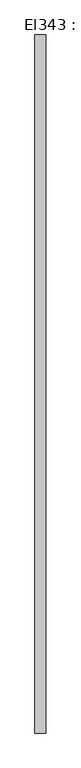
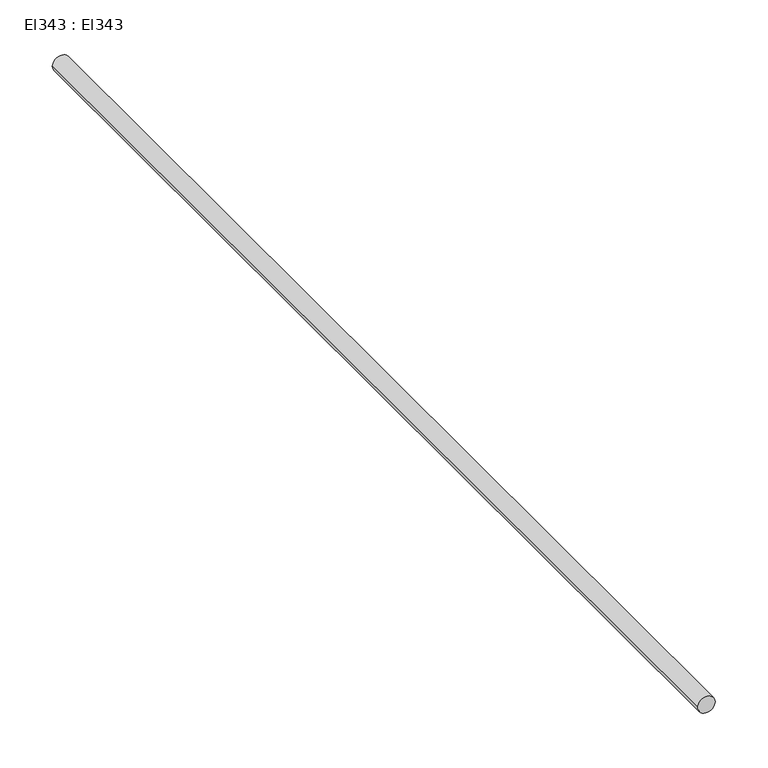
"""IFC4 building model written with IfcOpenShell, lengths in millimetres: cable carrier segment geometry, El343 : El343."""

from ifc_helpers import new_model, si_unit, point, frame, frame_2d, origin, place, context, project, spatial, circle_curve, trimmed, segment, composite_curve, outline, extrude, source, transform, mapped, element, save


def el343_el343_7dd97aa3(model_context):
    return source(origin(), model_context, "Body", "SweptSolid", [
        extrude(outline(composite_curve([segment(trimmed(circle_curve(frame_2d((300.0, 6600.0)), 9.5), [point((300.0, 6590.5))], [point((300.0, 6609.5))], False, "CARTESIAN"), True, "CONTINUOUS"), segment(trimmed(circle_curve(frame_2d((300.0, 6600.0)), 9.5), [point((300.0, 6609.5))], [point((300.0, 6590.5))], False, "CARTESIAN"), True, "CONTINUOUS")], self_intersect=False)), frame((0.0, 9541.289, 0.0), z_axis=(0.0, 1.0, 0.0), x_axis=(0.0, 0.0, 1.0)), (0.0, 0.0, 1.0), 1230.22),
    ])


if __name__ == "__main__":
    model = new_model("IFC4")
    model_context = context("Model", 3, world=origin())
    ifc_project = project(units=[si_unit("LENGTHUNIT", "METRE", prefix="MILLI")], contexts=[model_context])
    site = spatial("IfcSite", under=ifc_project)
    building = spatial("IfcBuilding", under=site)
    placement = place(None, origin())
    el343_el343_shape = el343_el343_7dd97aa3(model_context)
    element("IfcCableCarrierSegment", 1, ObjectType="El343 : El343", at=placement, inside=building, context=model_context, shape_type="MappedRepresentation", body=[
        mapped(el343_el343_shape, transform((0.0, 0.0, 0.0), x_axis=(1.0, 0.0, 0.0), y_axis=(0.0, 1.0, 0.0), z_axis=(0.0, 0.0, 1.0))),
    ])
    save(model, "model.ifc")
